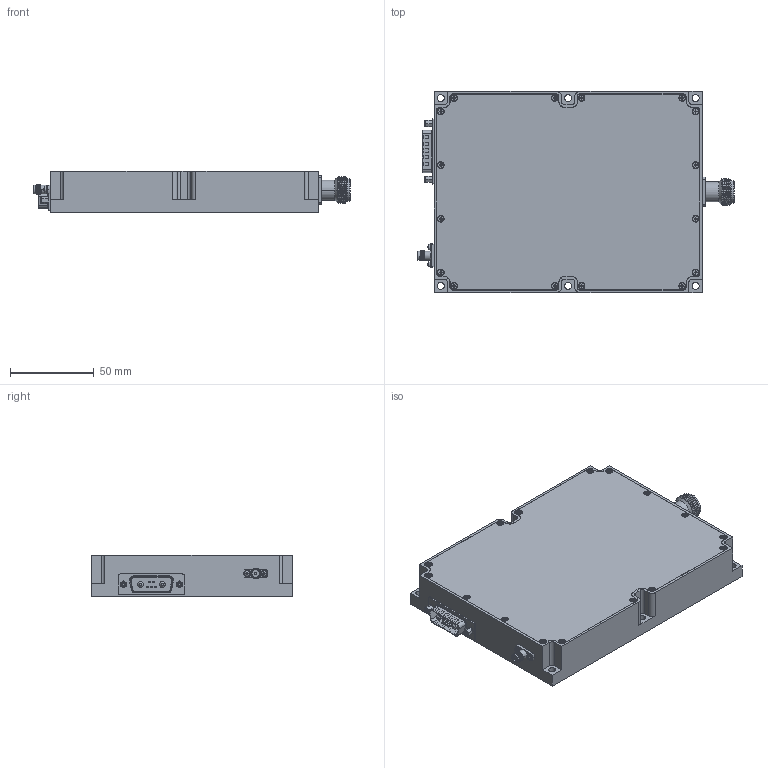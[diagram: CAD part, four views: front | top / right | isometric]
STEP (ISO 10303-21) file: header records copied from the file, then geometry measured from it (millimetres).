
FILE_DESCRIPTION (( 'STEP AP203' ), '1' );
FILE_NAME ('PA-60180-50.STEP', '2026-09-10T11:33:36', ( 'Windows User' ), ( 'P R C' ), 'SwSTEP 2.0', 'SolidWorks 2013', '' );
FILE_SCHEMA (( 'CONFIG_CONTROL_DESIGN' ));
Length unit declared in the file: millimetre
Products named in the file (10): m2蹟翐; 60180 50SMA_connecor_1; 麥芛蹟隊M2X4; 郪磁蹟隊M2X8; PA-60180-50; 60180 50_X2_5e9590e875356e9076d6677f_X0__1; 60180 50_X2_4e3b4f53_X0__1; 60180 50D-Sub Connector  5+2 Combo Plug Male Pins_1; 60180 50_X2_76d6677f_X0__1; 60180 50N-KFD_1
Assembly tree (35 placements, depth 2):
  PA-60180-50
    60180 50_X2_4e3b4f53_X0__1
    60180 50D-Sub Connector  5+2 Combo Plug Male Pins_1
    60180 50N-KFD_1
    60180 50_X2_76d6677f_X0__1
    60180 50SMA_connecor_1
    60180 50_X2_5e9590e875356e9076d6677f_X0__1
    麥芛蹟隊M2X4  x25
    郪磁蹟隊M2X8  x2
    m2蹟翐  x2
Bounding box: 188.45 x 120 x 25 mm (x, y, z)
Volume: 217307.3 mm3; surface area: 123597.6 mm2
Topology: 44 solids, 46 shells, 1734 faces, 4479 edges, 2850 vertices
Faces by surface type: cylinder 800, plane 679, cone 205, bspline 23, torus 18, sphere 9
Entity records: 46462 total; most frequent: CARTESIAN_POINT 20671, DIRECTION 5078, ORIENTED_EDGE 5006, EDGE_CURVE 2504, AXIS2_PLACEMENT_3D 1904, VERTEX_POINT 1623, LINE 1270, VECTOR 1270
